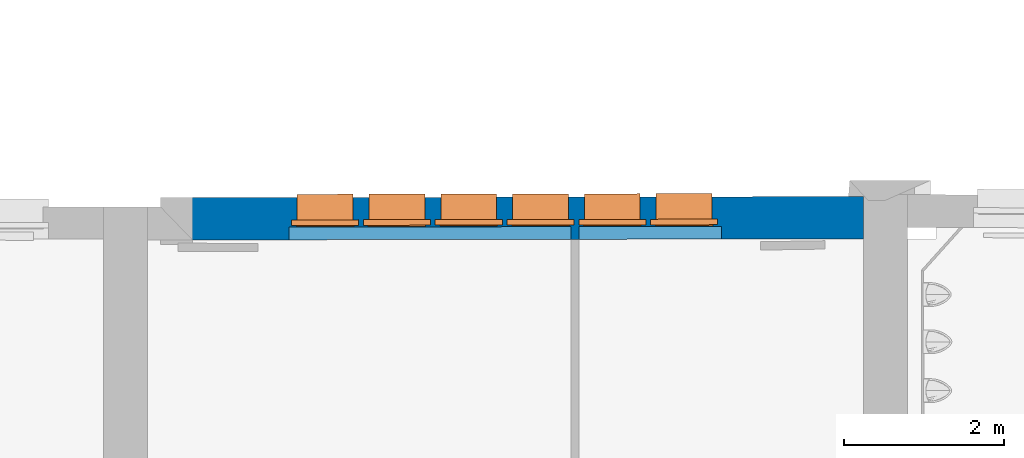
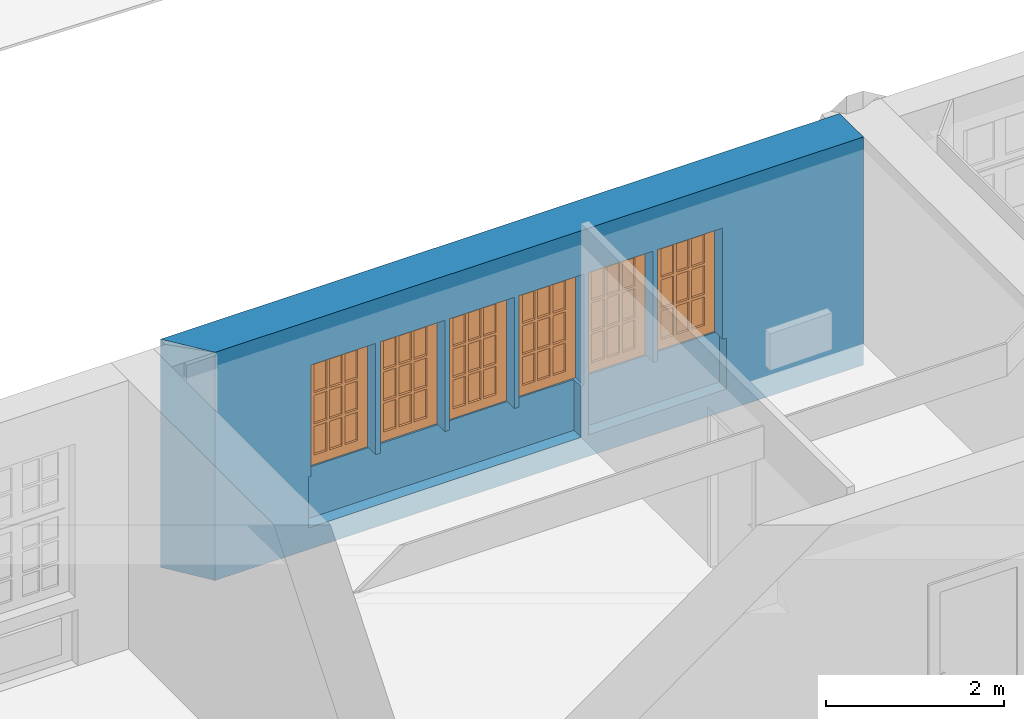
# One storey, part 40 of 158: 6 proxies, 1 wall, 8 openings.
"""IFC2X3 building model written with IfcOpenShell, lengths in metres."""

from ifc_helpers import new_model, entity, si_unit, converted_unit, derived_unit, money_unit, direction, frame, origin_with_axes, origin_2d_with_axis, place, context, subcontext, project, spatial, polyline, rectangle, outline, extrude, open_shell, faceted_brep, surface_model, source, transform, mapped, material, layer, layer_set, layer_usage, type_object, element, fill, save


model = new_model("IFC2X3")

# Units and contexts
model_context = context("Model", 3, precision=1e-05, world=origin_with_axes(), true_north=direction((0.0, 1.0)))
body_context = subcontext(model_context, "Body", "Model", "MODEL_VIEW")
ifc_project = project(units=[si_unit("LENGTHUNIT", "METRE"), si_unit("AREAUNIT", "SQUARE_METRE"), si_unit("VOLUMEUNIT", "CUBIC_METRE"), converted_unit("PLANEANGLEUNIT", "DEGREE", entity("IfcPlaneAngleMeasure", 0.0174532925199), si_unit("PLANEANGLEUNIT", "RADIAN"), dimensions=[0, 0, 0, 0, 0, 0, 0]), money_unit("EUR"), converted_unit("TIMEUNIT", "Year", entity("IfcTimeMeasure", 31556926.0), si_unit("TIMEUNIT", "SECOND"), dimensions=[0, 0, 1, 0, 0, 0, 0]), si_unit("MASSUNIT", "GRAM", prefix="KILO"), si_unit("THERMODYNAMICTEMPERATUREUNIT", "DEGREE_CELSIUS"), si_unit("LUMINOUSINTENSITYUNIT", "LUMEN"), si_unit("ENERGYUNIT", "JOULE", prefix="MEGA"), derived_unit("THERMALCONDUCTANCEUNIT", [(si_unit("POWERUNIT", "WATT"), 1), (si_unit("LENGTHUNIT", "METRE"), -1), (si_unit("THERMODYNAMICTEMPERATUREUNIT", "KELVIN"), -1)]), derived_unit("SPECIFICHEATCAPACITYUNIT", [(si_unit("ENERGYUNIT", "JOULE"), 1), (si_unit("MASSUNIT", "GRAM", prefix="KILO"), -1), (si_unit("THERMODYNAMICTEMPERATUREUNIT", "KELVIN"), -1)]), derived_unit("MASSDENSITYUNIT", [(si_unit("MASSUNIT", "GRAM", prefix="KILO"), 1), (si_unit("VOLUMEUNIT", "CUBIC_METRE"), -1)])], contexts=[model_context])

# Site, building, storey
site_placement = place(None, origin_with_axes())
site = spatial("IfcSite", under=ifc_project, at=site_placement, Name="Gelände", CompositionType="ELEMENT")
building_placement = place(site_placement, origin_with_axes())
building = spatial("IfcBuilding", under=site, at=building_placement, Name="Gebäude", CompositionType="ELEMENT")
storey_placement = place(building_placement, origin_with_axes())
storey = spatial("IfcBuildingStorey", under=building, at=storey_placement, Name="ERDGESCHOSS", CompositionType="ELEMENT", Elevation=0.0)

# Wall, openings, proxies
ifc_material = material(Name="05_ALLGEMEIN - TRAGENDE BAUTEILE")
ifc_layer = layer(ifc_material, 0.53, ventilated="UNKNOWN")
ifc_layer_set = layer_set([ifc_layer], Name="05_ALLGEMEIN - TRAGENDE BAUTEILE 0.53")
ifc_layer_usage = layer_usage(ifc_layer_set, "AXIS2", "NEGATIVE", 0.53)
wall_type = type_object("IfcWallType", Name="05_ALLGEMEIN - TRAGENDE BAUTEILE 530", PredefinedType="ELEMENTEDWALL")
wall_placement = place(storey_placement, frame((12.5387154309, 26.202749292, 0.475), z_axis=(0.0, 0.0, 1.0), x_axis=(-0.999998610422, -0.00166707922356, 0.0)))
wall = element("IfcWallStandardCase", 1, at=wall_placement, inside=storey, type_object=wall_type, material=ifc_layer_usage, Name="Wand-036", ObjectType="ELEMENTEDWALL", context=body_context, shape_type="SweptSolid", body=[
    extrude(outline(polyline([(0.0, 0.0), (8.80819250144, 0.0), (8.40907549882, 0.53), (0.000760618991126, 0.53), (0.0, 0.0)])), origin_with_axes(), (0.0, 0.0, 1.0), 3.125),
])
opening_1_placement = place(wall_placement, frame((2.24821807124, 0.0, 0.99306867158), z_axis=(0.0, 0.0, 1.0), x_axis=(1.0, 0.0, 0.0)))
opening_1 = element("IfcOpeningElement", 2, at=opening_1_placement, cuts=wall, Name="Fenster-015", context=body_context, shape_type="SweptSolid", body=[
    extrude(rectangle(XDim=0.700207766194, YDim=1.45470991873, at=origin_2d_with_axis()), frame((0.0, 0.28, 0.727354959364), z_axis=(0.0, 1.0, 0.0), x_axis=(1.0, 0.0, 0.0)), (0.0, 0.0, -1.0), 0.81),
    extrude(rectangle(XDim=0.840207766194, YDim=1.52470991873, at=origin_2d_with_axis()), frame((0.0, 0.28, 0.762354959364), z_axis=(0.0, -1.0, 0.0), x_axis=(1.0, 0.0, 0.0)), (0.0, 0.0, -1.0), 0.78),
])
opening_2_placement = place(wall_placement, frame((3.14772758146, 0.0, 0.99306867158), z_axis=(0.0, 0.0, 1.0), x_axis=(1.0, 0.0, 0.0)))
opening_2 = element("IfcOpeningElement", 3, at=opening_2_placement, cuts=wall, Name="Fenster-015", context=body_context, shape_type="SweptSolid", body=[
    extrude(rectangle(XDim=0.700207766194, YDim=1.45470991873, at=origin_2d_with_axis()), frame((0.0, 0.28, 0.727354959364), z_axis=(0.0, 1.0, 0.0), x_axis=(1.0, 0.0, 0.0)), (0.0, 0.0, -1.0), 0.81),
    extrude(rectangle(XDim=0.840207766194, YDim=1.52470991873, at=origin_2d_with_axis()), frame((0.0, 0.28, 0.762354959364), z_axis=(0.0, -1.0, 0.0), x_axis=(1.0, 0.0, 0.0)), (0.0, 0.0, -1.0), 0.78),
])
opening_3_placement = place(wall_placement, frame((4.04723709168, 0.0, 0.99306867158), z_axis=(0.0, 0.0, 1.0), x_axis=(1.0, 0.0, 0.0)))
opening_3 = element("IfcOpeningElement", 4, at=opening_3_placement, cuts=wall, Name="Fenster-015", context=body_context, shape_type="SweptSolid", body=[
    extrude(rectangle(XDim=0.700207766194, YDim=1.45470991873, at=origin_2d_with_axis()), frame((0.0, 0.28, 0.727354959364), z_axis=(0.0, 1.0, 0.0), x_axis=(1.0, 0.0, 0.0)), (0.0, 0.0, -1.0), 0.81),
    extrude(rectangle(XDim=0.840207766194, YDim=1.52470991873, at=origin_2d_with_axis()), frame((0.0, 0.28, 0.762354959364), z_axis=(0.0, -1.0, 0.0), x_axis=(1.0, 0.0, 0.0)), (0.0, 0.0, -1.0), 0.78),
])
opening_4_placement = place(wall_placement, frame((4.9467466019, 0.0, 0.99306867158), z_axis=(0.0, 0.0, 1.0), x_axis=(1.0, 0.0, 0.0)))
opening_4 = element("IfcOpeningElement", 5, at=opening_4_placement, cuts=wall, Name="Fenster-015", context=body_context, shape_type="SweptSolid", body=[
    extrude(rectangle(XDim=0.700207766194, YDim=1.45470991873, at=origin_2d_with_axis()), frame((0.0, 0.28, 0.727354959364), z_axis=(0.0, 1.0, 0.0), x_axis=(1.0, 0.0, 0.0)), (0.0, 0.0, -1.0), 0.81),
    extrude(rectangle(XDim=0.840207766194, YDim=1.52470991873, at=origin_2d_with_axis()), frame((0.0, 0.28, 0.762354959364), z_axis=(0.0, -1.0, 0.0), x_axis=(1.0, 0.0, 0.0)), (0.0, 0.0, -1.0), 0.78),
])
opening_5_placement = place(wall_placement, frame((5.84625611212, 0.0, 0.99306867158), z_axis=(0.0, 0.0, 1.0), x_axis=(1.0, 0.0, 0.0)))
opening_5 = element("IfcOpeningElement", 6, at=opening_5_placement, cuts=wall, Name="Fenster-015", context=body_context, shape_type="SweptSolid", body=[
    extrude(rectangle(XDim=0.700207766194, YDim=1.45470991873, at=origin_2d_with_axis()), frame((0.0, 0.28, 0.727354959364), z_axis=(0.0, 1.0, 0.0), x_axis=(1.0, 0.0, 0.0)), (0.0, 0.0, -1.0), 0.81),
    extrude(rectangle(XDim=0.840207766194, YDim=1.52470991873, at=origin_2d_with_axis()), frame((0.0, 0.28, 0.762354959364), z_axis=(0.0, -1.0, 0.0), x_axis=(1.0, 0.0, 0.0)), (0.0, 0.0, -1.0), 0.78),
])
opening_6_placement = place(wall_placement, frame((6.74576562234, 0.0, 0.99306867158), z_axis=(0.0, 0.0, 1.0), x_axis=(1.0, 0.0, 0.0)))
opening_6 = element("IfcOpeningElement", 7, at=opening_6_placement, cuts=wall, Name="Fenster-015", context=body_context, shape_type="SweptSolid", body=[
    extrude(rectangle(XDim=0.700207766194, YDim=1.45470991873, at=origin_2d_with_axis()), frame((0.0, 0.28, 0.727354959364), z_axis=(0.0, 1.0, 0.0), x_axis=(1.0, 0.0, 0.0)), (0.0, 0.0, -1.0), 0.81),
    extrude(rectangle(XDim=0.840207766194, YDim=1.52470991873, at=origin_2d_with_axis()), frame((0.0, 0.28, 0.762354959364), z_axis=(0.0, -1.0, 0.0), x_axis=(1.0, 0.0, 0.0)), (0.0, 0.0, -1.0), 0.78),
])
opening_7_placement = place(wall_placement, frame((2.670306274, 0.0, 0.295), z_axis=(0.0, 0.0, 1.0), x_axis=(1.0, 0.0, 0.0)))
element("IfcOpeningElement", 8, at=opening_7_placement, cuts=wall, Name="Fenster-018", ObjectType="Recess", context=body_context, shape_type="SweptSolid", body=[
    extrude(rectangle(XDim=1.78658915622, YDim=0.69806867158, at=origin_2d_with_axis()), frame((0.0, 0.370725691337, 0.34903433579), z_axis=(0.0, -1.0, 0.0), x_axis=(1.0, 0.0, 0.0)), (0.0, 0.0, -1.0), 0.689274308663),
])
opening_8_placement = place(wall_placement, frame((5.43166768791, 0.0, 0.295), z_axis=(0.0, 0.0, 1.0), x_axis=(1.0, 0.0, 0.0)))
element("IfcOpeningElement", 9, at=opening_8_placement, cuts=wall, Name="Fenster-018", ObjectType="Recess", context=body_context, shape_type="SweptSolid", body=[
    extrude(rectangle(XDim=3.53613333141, YDim=0.69806867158, at=origin_2d_with_axis()), frame((0.0, 0.370725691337, 0.34903433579), z_axis=(0.0, -1.0, 0.0), x_axis=(1.0, 0.0, 0.0)), (0.0, 0.0, -1.0), 0.689274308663),
])
building_element_proxy_type = type_object("IfcBuildingElementProxyType", Name="1-Flügelfenster 25", PredefinedType="NOTDEFINED")
shared_shape = source(origin_with_axes(), body_context, "Body", "SurfaceModel", [
    surface_model("IfcShellBasedSurfaceModel", [(-0.350103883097, -0.071, 0.08), (-0.350103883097, -0.071, 0.07), (0.350103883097, -0.071, 0.07), (0.350103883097, -0.071, 0.08), (-0.350103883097, -0.39, 0.00142857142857), (0.350103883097, -0.39, 0.00142857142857), (-0.350103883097, -0.39, -0.0285714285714), (0.350103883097, -0.39, -0.0285714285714), (-0.350103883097, -0.375, -0.0135714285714), (0.350103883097, -0.375, -0.0135714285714)], [open_shell([[[0, 1, 2, 3]], [[1, 4, 5, 2]], [[4, 6, 7, 5]], [[6, 8, 9, 7]]])]),
    faceted_brep([(-0.350103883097, -0.07, 0.0689771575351), (-0.350103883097, -0.35, 0.00878906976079), (0.350103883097, -0.35, 0.00878906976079), (0.350103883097, -0.07, 0.0689771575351), (-0.350103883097, -0.07, 0.0), (-0.350103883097, -0.35, 0.0), (0.350103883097, -0.35, 0.0), (0.350103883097, -0.07, 0.0)], [[[0, 1, 2, 3]], [[0, 4, 5, 1]], [[1, 5, 6, 2]], [[3, 2, 6, 7]], [[4, 0, 3, 7]], [[5, 4, 7, 6]]]),
    faceted_brep([(-0.420103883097, -0.07, 0.0), (-0.420103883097, 0.0, 0.0), (-0.340103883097, 0.0, 0.08), (-0.340103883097, -0.07, 0.08), (-0.420103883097, -0.07, 1.52470991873), (-0.420103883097, 0.0, 1.52470991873), (-0.340103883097, 0.0, 1.44470991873), (-0.340103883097, -0.07, 1.44470991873)], [[[0, 1, 2, 3]], [[4, 5, 1, 0]], [[1, 5, 6, 2]], [[3, 2, 6, 7]], [[0, 3, 7, 4]], [[7, 6, 5, 4]]]),
    faceted_brep([(0.420103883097, -0.07, 0.0), (0.420103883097, 0.0, 0.0), (0.420103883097, 0.0, 1.52470991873), (0.420103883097, -0.07, 1.52470991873), (0.340103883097, -0.07, 0.08), (0.340103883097, 0.0, 0.08), (0.340103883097, 0.0, 1.44470991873), (0.340103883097, -0.07, 1.44470991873)], [[[0, 1, 2, 3]], [[4, 5, 1, 0]], [[1, 5, 6, 2]], [[3, 2, 6, 7]], [[0, 3, 7, 4]], [[7, 6, 5, 4]]]),
    faceted_brep([(-0.420103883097, -0.07, 0.0), (-0.420103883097, 0.0, 0.0), (0.420103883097, 0.0, 0.0), (0.420103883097, -0.07, 0.0), (-0.340103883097, -0.07, 0.08), (-0.340103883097, 0.0, 0.08), (0.0, 0.0, 0.08), (0.340103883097, 0.0, 0.08), (0.340103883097, -0.07, 0.08), (0.0, -0.07, 0.08)], [[[0, 1, 2, 3]], [[4, 5, 1, 0]], [[1, 5, 6, 7, 2]], [[3, 2, 7, 8]], [[0, 3, 8, 9, 4]], [[9, 6, 5, 4]], [[8, 7, 6, 9]]]),
    faceted_brep([(-0.420103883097, -0.07, 1.52470991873), (-0.420103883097, 0.0, 1.52470991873), (-0.340103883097, 0.0, 1.44470991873), (-0.340103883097, -0.07, 1.44470991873), (0.420103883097, -0.07, 1.52470991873), (0.420103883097, 0.0, 1.52470991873), (0.340103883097, 0.0, 1.44470991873), (0.0, 0.0, 1.44470991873), (0.0, -0.07, 1.44470991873), (0.340103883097, -0.07, 1.44470991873)], [[[0, 1, 2, 3]], [[4, 5, 1, 0]], [[1, 5, 6, 7, 2]], [[3, 2, 7, 8]], [[0, 3, 8, 9, 4]], [[9, 6, 5, 4]], [[8, 7, 6, 9]]]),
    faceted_brep([(-0.360103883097, 0.0, 0.06), (-0.360103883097, 0.013, 0.06), (-0.280103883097, 0.013, 0.14), (-0.280103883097, 0.0, 0.14), (-0.360103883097, 0.0, 1.46470991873), (-0.360103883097, 0.013, 1.46470991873), (-0.280103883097, 0.013, 1.38470991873), (-0.280103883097, 0.0, 1.38470991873)], [[[0, 1, 2, 3]], [[4, 5, 1, 0]], [[1, 5, 6, 2]], [[3, 2, 6, 7]], [[0, 3, 7, 4]], [[7, 6, 5, 4]]]),
    faceted_brep([(0.360103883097, 0.0, 0.06), (0.280103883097, 0.0, 0.14), (0.280103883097, 0.013, 0.14), (0.360103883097, 0.013, 0.06), (0.360103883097, 0.0, 1.46470991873), (0.280103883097, 0.0, 1.38470991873), (0.280103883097, 0.013, 1.38470991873), (0.360103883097, 0.013, 1.46470991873)], [[[0, 1, 2, 3]], [[0, 4, 5, 1]], [[1, 5, 6, 2]], [[3, 2, 6, 7]], [[4, 0, 3, 7]], [[5, 4, 7, 6]]]),
    faceted_brep([(-0.360103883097, 0.0, 0.06), (-0.360103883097, 0.013, 0.06), (0.360103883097, 0.013, 0.06), (0.360103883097, 0.0, 0.06), (-0.280103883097, 0.0, 0.14), (-0.280103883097, 0.013, 0.14), (0.280103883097, 0.013, 0.14), (0.280103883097, 0.0, 0.14)], [[[0, 1, 2, 3]], [[4, 5, 1, 0]], [[1, 5, 6, 2]], [[3, 2, 6, 7]], [[0, 3, 7, 4]], [[7, 6, 5, 4]]]),
    faceted_brep([(-0.360103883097, 0.0, 1.46470991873), (0.360103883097, 0.0, 1.46470991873), (0.360103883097, 0.013, 1.46470991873), (-0.360103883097, 0.013, 1.46470991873), (-0.280103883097, 0.0, 1.38470991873), (0.280103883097, 0.0, 1.38470991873), (0.280103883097, 0.013, 1.38470991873), (-0.280103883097, 0.013, 1.38470991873)], [[[0, 1, 2, 3]], [[0, 4, 5, 1]], [[1, 5, 6, 2]], [[3, 2, 6, 7]], [[4, 0, 3, 7]], [[5, 4, 7, 6]]]),
    faceted_brep([(-0.340103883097, -0.057, 0.08), (-0.340103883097, 0.0, 0.08), (-0.280103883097, 0.0, 0.14), (-0.280103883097, -0.057, 0.14), (-0.340103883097, -0.057, 1.44470991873), (-0.340103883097, 0.0, 1.44470991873), (-0.280103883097, 0.0, 1.38470991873), (-0.280103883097, -0.057, 1.38470991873)], [[[0, 1, 2, 3]], [[4, 5, 1, 0]], [[1, 5, 6, 2]], [[3, 2, 6, 7]], [[0, 3, 7, 4]], [[7, 6, 5, 4]]]),
    faceted_brep([(0.340103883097, -0.057, 0.08), (0.280103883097, -0.057, 0.14), (0.280103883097, 0.0, 0.14), (0.340103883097, 0.0, 0.08), (0.340103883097, -0.057, 1.44470991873), (0.280103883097, -0.057, 1.38470991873), (0.280103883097, 0.0, 1.38470991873), (0.340103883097, 0.0, 1.44470991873)], [[[0, 1, 2, 3]], [[0, 4, 5, 1]], [[1, 5, 6, 2]], [[3, 2, 6, 7]], [[4, 0, 3, 7]], [[5, 4, 7, 6]]]),
    faceted_brep([(-0.340103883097, -0.057, 0.08), (-0.340103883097, 0.0, 0.08), (0.340103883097, 0.0, 0.08), (0.340103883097, -0.057, 0.08), (-0.280103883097, -0.057, 0.14), (-0.280103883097, 0.0, 0.14), (0.280103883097, 0.0, 0.14), (0.280103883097, -0.057, 0.14)], [[[0, 1, 2, 3]], [[4, 5, 1, 0]], [[1, 5, 6, 2]], [[3, 2, 6, 7]], [[0, 3, 7, 4]], [[7, 6, 5, 4]]]),
    faceted_brep([(-0.340103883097, -0.057, 1.44470991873), (0.340103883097, -0.057, 1.44470991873), (0.340103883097, 0.0, 1.44470991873), (-0.340103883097, 0.0, 1.44470991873), (-0.280103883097, -0.057, 1.38470991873), (0.280103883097, -0.057, 1.38470991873), (0.280103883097, 0.0, 1.38470991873), (-0.280103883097, 0.0, 1.38470991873)], [[[0, 1, 2, 3]], [[0, 4, 5, 1]], [[1, 5, 6, 2]], [[3, 2, 6, 7]], [[4, 0, 3, 7]], [[5, 4, 7, 6]]]),
    faceted_brep([(-0.116701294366, -0.057, 0.14), (-0.116701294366, -0.022, 0.14), (-0.0817012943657, -0.022, 0.14), (-0.0817012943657, -0.057, 0.14), (-0.116701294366, -0.057, 1.38470991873), (-0.116701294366, -0.022, 1.38470991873), (-0.0817012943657, -0.022, 1.38470991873), (-0.0817012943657, -0.057, 1.38470991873)], [[[0, 1, 2, 3]], [[4, 5, 1, 0]], [[1, 5, 6, 2]], [[3, 2, 6, 7]], [[0, 3, 7, 4]], [[7, 6, 5, 4]]]),
    faceted_brep([(-0.116701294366, -0.022, 0.14), (-0.116701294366, 0.013, 0.14), (-0.0817012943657, 0.013, 0.14), (-0.0817012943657, -0.022, 0.14), (-0.116701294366, -0.022, 1.38470991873), (-0.116701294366, 0.013, 1.38470991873), (-0.0817012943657, 0.013, 1.38470991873), (-0.0817012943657, -0.022, 1.38470991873)], [[[0, 1, 2, 3]], [[4, 5, 1, 0]], [[1, 5, 6, 2]], [[3, 2, 6, 7]], [[0, 3, 7, 4]], [[7, 6, 5, 4]]]),
    faceted_brep([(0.0817012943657, -0.057, 0.14), (0.0817012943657, -0.022, 0.14), (0.116701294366, -0.022, 0.14), (0.116701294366, -0.057, 0.14), (0.0817012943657, -0.057, 1.38470991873), (0.0817012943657, -0.022, 1.38470991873), (0.116701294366, -0.022, 1.38470991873), (0.116701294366, -0.057, 1.38470991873)], [[[0, 1, 2, 3]], [[4, 5, 1, 0]], [[1, 5, 6, 2]], [[3, 2, 6, 7]], [[0, 3, 7, 4]], [[7, 6, 5, 4]]]),
    faceted_brep([(0.0817012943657, -0.022, 0.14), (0.0817012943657, 0.013, 0.14), (0.116701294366, 0.013, 0.14), (0.116701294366, -0.022, 0.14), (0.0817012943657, -0.022, 1.38470991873), (0.0817012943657, 0.013, 1.38470991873), (0.116701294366, 0.013, 1.38470991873), (0.116701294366, -0.022, 1.38470991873)], [[[0, 1, 2, 3]], [[4, 5, 1, 0]], [[1, 5, 6, 2]], [[3, 2, 6, 7]], [[0, 3, 7, 4]], [[7, 6, 5, 4]]]),
    faceted_brep([(0.0817012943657, -0.057, 0.531569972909), (0.0817012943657, -0.057, 0.566569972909), (-0.0817012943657, -0.057, 0.566569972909), (-0.0817012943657, -0.057, 0.531569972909), (0.0817012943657, -0.022, 0.566569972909), (0.0817012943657, -0.022, 0.531569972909), (-0.0817012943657, -0.022, 0.566569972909), (-0.0817012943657, -0.022, 0.531569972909)], [[[0, 1, 2, 3]], [[4, 1, 0, 5]], [[1, 4, 6, 2]], [[2, 6, 7, 3]], [[5, 0, 3, 7]], [[4, 5, 7, 6]]]),
    faceted_brep([(-0.280103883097, -0.057, 0.566569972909), (-0.280103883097, -0.057, 0.531569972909), (-0.116701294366, -0.057, 0.531569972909), (-0.116701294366, -0.057, 0.566569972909), (-0.280103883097, -0.022, 0.566569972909), (-0.280103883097, -0.022, 0.531569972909), (-0.116701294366, -0.022, 0.531569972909), (-0.116701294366, -0.022, 0.566569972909)], [[[0, 1, 2, 3]], [[1, 0, 4, 5]], [[1, 5, 6, 2]], [[2, 6, 7, 3]], [[4, 0, 3, 7]], [[5, 4, 7, 6]]]),
    faceted_brep([(0.116701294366, -0.022, 0.566569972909), (0.116701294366, -0.057, 0.566569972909), (0.280103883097, -0.057, 0.566569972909), (0.280103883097, -0.022, 0.566569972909), (0.116701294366, -0.057, 0.531569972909), (0.116701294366, -0.022, 0.531569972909), (0.280103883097, -0.057, 0.531569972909), (0.280103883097, -0.022, 0.531569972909)], [[[0, 1, 2, 3]], [[4, 1, 0, 5]], [[1, 4, 6, 2]], [[3, 2, 6, 7]], [[5, 0, 3, 7]], [[4, 5, 7, 6]]]),
    faceted_brep([(0.0817012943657, -0.022, 0.531569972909), (0.0817012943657, -0.022, 0.566569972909), (-0.0817012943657, -0.022, 0.566569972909), (-0.0817012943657, -0.022, 0.531569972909), (0.0817012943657, 0.013, 0.566569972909), (0.0817012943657, 0.013, 0.531569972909), (-0.0817012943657, 0.013, 0.566569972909), (-0.0817012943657, 0.013, 0.531569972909)], [[[0, 1, 2, 3]], [[4, 1, 0, 5]], [[1, 4, 6, 2]], [[2, 6, 7, 3]], [[5, 0, 3, 7]], [[4, 5, 7, 6]]]),
    faceted_brep([(-0.280103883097, -0.022, 0.566569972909), (-0.280103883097, -0.022, 0.531569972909), (-0.116701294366, -0.022, 0.531569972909), (-0.116701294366, -0.022, 0.566569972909), (-0.280103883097, 0.013, 0.566569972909), (-0.280103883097, 0.013, 0.531569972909), (-0.116701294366, 0.013, 0.531569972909), (-0.116701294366, 0.013, 0.566569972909)], [[[0, 1, 2, 3]], [[1, 0, 4, 5]], [[1, 5, 6, 2]], [[2, 6, 7, 3]], [[4, 0, 3, 7]], [[5, 4, 7, 6]]]),
    faceted_brep([(0.116701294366, 0.013, 0.566569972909), (0.116701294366, -0.022, 0.566569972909), (0.280103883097, -0.022, 0.566569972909), (0.280103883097, 0.013, 0.566569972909), (0.116701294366, -0.022, 0.531569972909), (0.116701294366, 0.013, 0.531569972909), (0.280103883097, -0.022, 0.531569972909), (0.280103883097, 0.013, 0.531569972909)], [[[0, 1, 2, 3]], [[4, 1, 0, 5]], [[1, 4, 6, 2]], [[3, 2, 6, 7]], [[5, 0, 3, 7]], [[4, 5, 7, 6]]]),
    faceted_brep([(0.0817012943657, -0.057, 0.958139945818), (0.0817012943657, -0.057, 0.993139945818), (-0.0817012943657, -0.057, 0.993139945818), (-0.0817012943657, -0.057, 0.958139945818), (0.0817012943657, -0.022, 0.993139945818), (0.0817012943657, -0.022, 0.958139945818), (-0.0817012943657, -0.022, 0.993139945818), (-0.0817012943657, -0.022, 0.958139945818)], [[[0, 1, 2, 3]], [[4, 1, 0, 5]], [[1, 4, 6, 2]], [[2, 6, 7, 3]], [[5, 0, 3, 7]], [[4, 5, 7, 6]]]),
    faceted_brep([(-0.280103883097, -0.057, 0.993139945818), (-0.280103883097, -0.057, 0.958139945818), (-0.116701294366, -0.057, 0.958139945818), (-0.116701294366, -0.057, 0.993139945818), (-0.280103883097, -0.022, 0.993139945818), (-0.280103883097, -0.022, 0.958139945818), (-0.116701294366, -0.022, 0.958139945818), (-0.116701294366, -0.022, 0.993139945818)], [[[0, 1, 2, 3]], [[1, 0, 4, 5]], [[1, 5, 6, 2]], [[2, 6, 7, 3]], [[4, 0, 3, 7]], [[5, 4, 7, 6]]]),
    faceted_brep([(0.116701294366, -0.022, 0.993139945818), (0.116701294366, -0.057, 0.993139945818), (0.280103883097, -0.057, 0.993139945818), (0.280103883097, -0.022, 0.993139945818), (0.116701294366, -0.057, 0.958139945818), (0.116701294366, -0.022, 0.958139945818), (0.280103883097, -0.057, 0.958139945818), (0.280103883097, -0.022, 0.958139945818)], [[[0, 1, 2, 3]], [[4, 1, 0, 5]], [[1, 4, 6, 2]], [[3, 2, 6, 7]], [[5, 0, 3, 7]], [[4, 5, 7, 6]]]),
    faceted_brep([(0.0817012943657, -0.022, 0.958139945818), (0.0817012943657, -0.022, 0.993139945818), (-0.0817012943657, -0.022, 0.993139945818), (-0.0817012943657, -0.022, 0.958139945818), (0.0817012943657, 0.013, 0.993139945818), (0.0817012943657, 0.013, 0.958139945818), (-0.0817012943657, 0.013, 0.993139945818), (-0.0817012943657, 0.013, 0.958139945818)], [[[0, 1, 2, 3]], [[4, 1, 0, 5]], [[1, 4, 6, 2]], [[2, 6, 7, 3]], [[5, 0, 3, 7]], [[4, 5, 7, 6]]]),
    faceted_brep([(-0.280103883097, -0.022, 0.993139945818), (-0.280103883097, -0.022, 0.958139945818), (-0.116701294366, -0.022, 0.958139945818), (-0.116701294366, -0.022, 0.993139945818), (-0.280103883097, 0.013, 0.993139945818), (-0.280103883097, 0.013, 0.958139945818), (-0.116701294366, 0.013, 0.958139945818), (-0.116701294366, 0.013, 0.993139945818)], [[[0, 1, 2, 3]], [[1, 0, 4, 5]], [[1, 5, 6, 2]], [[2, 6, 7, 3]], [[4, 0, 3, 7]], [[5, 4, 7, 6]]]),
    faceted_brep([(0.116701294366, 0.013, 0.993139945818), (0.116701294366, -0.022, 0.993139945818), (0.280103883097, -0.022, 0.993139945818), (0.280103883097, 0.013, 0.993139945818), (0.116701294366, -0.022, 0.958139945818), (0.116701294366, 0.013, 0.958139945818), (0.280103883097, -0.022, 0.958139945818), (0.280103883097, 0.013, 0.958139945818)], [[[0, 1, 2, 3]], [[4, 1, 0, 5]], [[1, 4, 6, 2]], [[3, 2, 6, 7]], [[5, 0, 3, 7]], [[4, 5, 7, 6]]]),
    faceted_brep([(-0.116701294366, -0.017, 0.958139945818), (-0.116701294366, -0.027, 0.958139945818), (-0.116701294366, -0.027, 0.566569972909), (-0.116701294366, -0.017, 0.566569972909), (-0.280103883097, -0.027, 0.958139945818), (-0.280103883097, -0.017, 0.958139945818), (-0.280103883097, -0.027, 0.566569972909), (-0.280103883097, -0.017, 0.566569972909)], [[[0, 1, 2, 3]], [[4, 1, 0, 5]], [[1, 4, 6, 2]], [[2, 6, 7, 3]], [[5, 0, 3, 7]], [[4, 5, 7, 6]]]),
    faceted_brep([(0.280103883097, -0.027, 0.14), (0.280103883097, -0.017, 0.14), (0.280103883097, -0.017, 0.531569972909), (0.280103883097, -0.027, 0.531569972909), (0.116701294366, -0.027, 0.14), (0.116701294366, -0.017, 0.14), (0.116701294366, -0.017, 0.531569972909), (0.116701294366, -0.027, 0.531569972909)], [[[0, 1, 2, 3]], [[0, 4, 5, 1]], [[1, 5, 6, 2]], [[2, 6, 7, 3]], [[4, 0, 3, 7]], [[5, 4, 7, 6]]]),
    faceted_brep([(0.0817012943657, -0.027, 0.14), (0.0817012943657, -0.017, 0.14), (0.0817012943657, -0.017, 0.531569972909), (0.0817012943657, -0.027, 0.531569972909), (-0.0817012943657, -0.017, 0.14), (-0.0817012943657, -0.027, 0.14), (-0.0817012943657, -0.017, 0.531569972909), (-0.0817012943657, -0.027, 0.531569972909)], [[[0, 1, 2, 3]], [[4, 1, 0, 5]], [[1, 4, 6, 2]], [[2, 6, 7, 3]], [[5, 0, 3, 7]], [[4, 5, 7, 6]]]),
    faceted_brep([(-0.116701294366, -0.027, 0.14), (-0.116701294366, -0.017, 0.14), (-0.116701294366, -0.017, 0.531569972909), (-0.116701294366, -0.027, 0.531569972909), (-0.280103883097, -0.027, 0.14), (-0.280103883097, -0.017, 0.14), (-0.280103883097, -0.017, 0.531569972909), (-0.280103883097, -0.027, 0.531569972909)], [[[0, 1, 2, 3]], [[0, 4, 5, 1]], [[1, 5, 6, 2]], [[2, 6, 7, 3]], [[4, 0, 3, 7]], [[5, 4, 7, 6]]]),
    faceted_brep([(0.280103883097, -0.017, 0.958139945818), (0.280103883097, -0.027, 0.958139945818), (0.280103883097, -0.027, 0.566569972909), (0.280103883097, -0.017, 0.566569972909), (0.116701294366, -0.027, 0.958139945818), (0.116701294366, -0.017, 0.958139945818), (0.116701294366, -0.027, 0.566569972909), (0.116701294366, -0.017, 0.566569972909)], [[[0, 1, 2, 3]], [[4, 1, 0, 5]], [[1, 4, 6, 2]], [[2, 6, 7, 3]], [[5, 0, 3, 7]], [[4, 5, 7, 6]]]),
    faceted_brep([(0.0817012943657, -0.017, 0.958139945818), (0.0817012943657, -0.027, 0.958139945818), (0.0817012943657, -0.027, 0.566569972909), (0.0817012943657, -0.017, 0.566569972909), (-0.0817012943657, -0.027, 0.958139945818), (-0.0817012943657, -0.017, 0.958139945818), (-0.0817012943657, -0.027, 0.566569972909), (-0.0817012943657, -0.017, 0.566569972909)], [[[0, 1, 2, 3]], [[4, 1, 0, 5]], [[1, 4, 6, 2]], [[2, 6, 7, 3]], [[5, 0, 3, 7]], [[4, 5, 7, 6]]]),
    faceted_brep([(-0.280103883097, -0.027, 0.993139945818), (-0.116701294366, -0.027, 0.993139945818), (-0.116701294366, -0.027, 1.38470991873), (-0.280103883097, -0.027, 1.38470991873), (-0.116701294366, -0.017, 0.993139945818), (-0.280103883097, -0.017, 0.993139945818), (-0.116701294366, -0.017, 1.38470991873), (-0.280103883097, -0.017, 1.38470991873)], [[[0, 1, 2, 3]], [[4, 1, 0, 5]], [[1, 4, 6, 2]], [[2, 6, 7, 3]], [[5, 0, 3, 7]], [[4, 5, 7, 6]]]),
    faceted_brep([(0.116701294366, -0.027, 0.993139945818), (0.280103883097, -0.027, 0.993139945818), (0.280103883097, -0.027, 1.38470991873), (0.116701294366, -0.027, 1.38470991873), (0.280103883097, -0.017, 0.993139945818), (0.116701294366, -0.017, 0.993139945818), (0.280103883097, -0.017, 1.38470991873), (0.116701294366, -0.017, 1.38470991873)], [[[0, 1, 2, 3]], [[4, 1, 0, 5]], [[1, 4, 6, 2]], [[2, 6, 7, 3]], [[5, 0, 3, 7]], [[4, 5, 7, 6]]]),
    faceted_brep([(-0.0817012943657, -0.027, 0.993139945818), (0.0817012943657, -0.027, 0.993139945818), (0.0817012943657, -0.027, 1.38470991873), (-0.0817012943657, -0.027, 1.38470991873), (0.0817012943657, -0.017, 0.993139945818), (-0.0817012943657, -0.017, 0.993139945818), (0.0817012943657, -0.017, 1.38470991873), (-0.0817012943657, -0.017, 1.38470991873)], [[[0, 1, 2, 3]], [[4, 1, 0, 5]], [[1, 4, 6, 2]], [[7, 3, 2, 6]], [[5, 0, 3, 7]], [[4, 5, 7, 6]]]),
])
proxy_1_placement = place(opening_1_placement, frame((-0.420103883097, 0.0, 0.0), z_axis=(0.0, 0.0, 1.0), x_axis=(1.0, 0.0, 0.0)))
proxy_1 = element("IfcBuildingElementProxy", 10, at=proxy_1_placement, inside=storey, type_object=building_element_proxy_type, Name="Fenster-015", context=body_context, shape_type="MappedRepresentation", body=[
    mapped(shared_shape, transform((0.420103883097, 0.35, 0.0))),
])
fill(opening_1, proxy_1)
proxy_2_placement = place(opening_2_placement, frame((-0.420103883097, 0.0, 0.0), z_axis=(0.0, 0.0, 1.0), x_axis=(1.0, 0.0, 0.0)))
proxy_2 = element("IfcBuildingElementProxy", 11, at=proxy_2_placement, inside=storey, type_object=building_element_proxy_type, Name="Fenster-015", context=body_context, shape_type="MappedRepresentation", body=[
    mapped(shared_shape, transform((0.420103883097, 0.35, 0.0))),
])
fill(opening_2, proxy_2)
proxy_3_placement = place(opening_3_placement, frame((-0.420103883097, 0.0, 0.0), z_axis=(0.0, 0.0, 1.0), x_axis=(1.0, 0.0, 0.0)))
proxy_3 = element("IfcBuildingElementProxy", 12, at=proxy_3_placement, inside=storey, type_object=building_element_proxy_type, Name="Fenster-015", context=body_context, shape_type="MappedRepresentation", body=[
    mapped(shared_shape, transform((0.420103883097, 0.35, 0.0))),
])
fill(opening_3, proxy_3)
proxy_4_placement = place(opening_4_placement, frame((-0.420103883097, 0.0, 0.0), z_axis=(0.0, 0.0, 1.0), x_axis=(1.0, 0.0, 0.0)))
proxy_4 = element("IfcBuildingElementProxy", 13, at=proxy_4_placement, inside=storey, type_object=building_element_proxy_type, Name="Fenster-015", context=body_context, shape_type="MappedRepresentation", body=[
    mapped(shared_shape, transform((0.420103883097, 0.35, 0.0))),
])
fill(opening_4, proxy_4)
proxy_5_placement = place(opening_5_placement, frame((-0.420103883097, 0.0, 0.0), z_axis=(0.0, 0.0, 1.0), x_axis=(1.0, 0.0, 0.0)))
proxy_5 = element("IfcBuildingElementProxy", 14, at=proxy_5_placement, inside=storey, type_object=building_element_proxy_type, Name="Fenster-015", context=body_context, shape_type="MappedRepresentation", body=[
    mapped(shared_shape, transform((0.420103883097, 0.35, 0.0))),
])
fill(opening_5, proxy_5)
proxy_6_placement = place(opening_6_placement, frame((-0.420103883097, 0.0, 0.0), z_axis=(0.0, 0.0, 1.0), x_axis=(1.0, 0.0, 0.0)))
proxy_6 = element("IfcBuildingElementProxy", 15, at=proxy_6_placement, inside=storey, type_object=building_element_proxy_type, Name="Fenster-015", context=body_context, shape_type="MappedRepresentation", body=[
    mapped(shared_shape, transform((0.420103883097, 0.35, 0.0))),
])
fill(opening_6, proxy_6)

save(model, "model.ifc")
